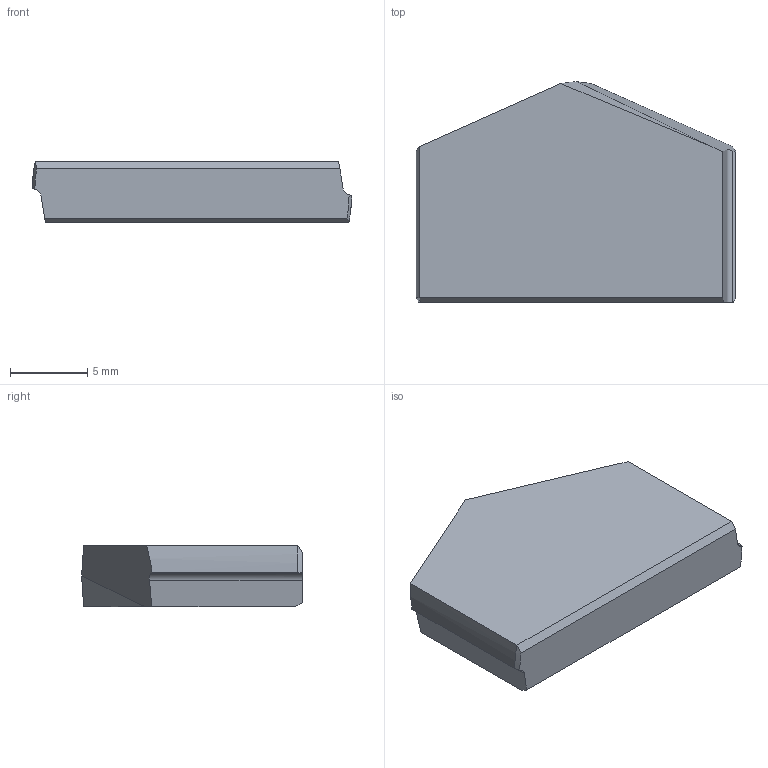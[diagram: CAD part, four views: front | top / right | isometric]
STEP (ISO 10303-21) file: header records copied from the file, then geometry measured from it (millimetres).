
FILE_DESCRIPTION (( 'STEP AP214' ), '1' );
FILE_NAME ('13-16.STEP', '2022-06-24T05:44:36', ( '' ), ( '' ), 'SwSTEP 2.0', 'SolidWorks 2018', '' );
FILE_SCHEMA (( 'AUTOMOTIVE_DESIGN' ));
Length unit declared in the file: millimetre
Products named in the file (1): 13-16
Bounding box: 20.63 x 14.25 x 4 mm (x, y, z)
Volume: 951.8 mm3; surface area: 714.2 mm2
Topology: 1 solids, 1 shells, 19 faces, 50 edges, 33 vertices
Faces by surface type: plane 13, cylinder 4, cone 2
Entity records: 620 total; most frequent: CARTESIAN_POINT 133, ORIENTED_EDGE 100, DIRECTION 86, EDGE_CURVE 50, LINE 34, VECTOR 34, VERTEX_POINT 33, AXIS2_PLACEMENT_3D 26
